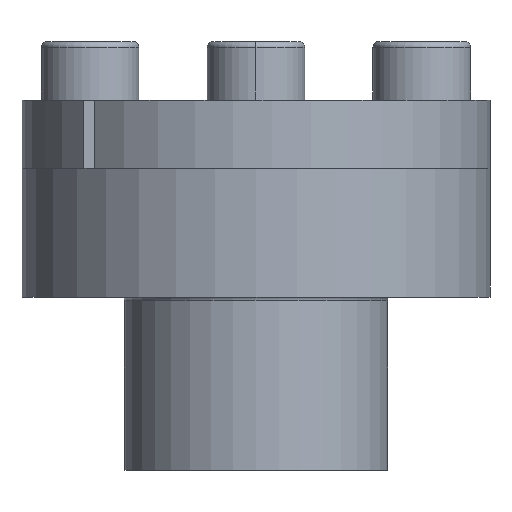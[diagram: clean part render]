
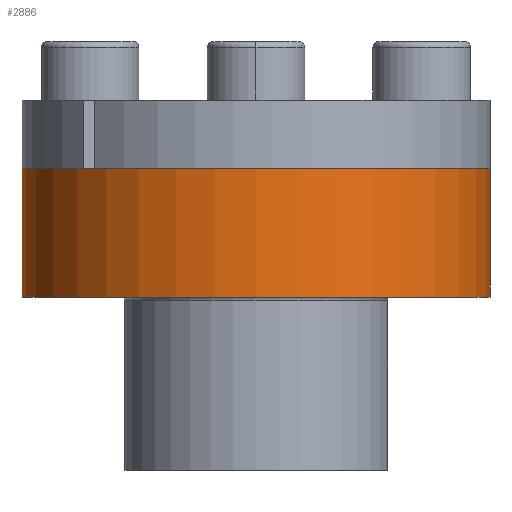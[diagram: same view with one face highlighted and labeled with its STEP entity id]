
A CAD part, front view. The second image highlights one B-rep face of the part: STEP entity #2886.
In plain terms, the highlighted cylindrical face has radius 24 mm (diameter 48 mm), a partial arc.
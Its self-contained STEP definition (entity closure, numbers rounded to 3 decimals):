
#101 = CARTESIAN_POINT ( 'NONE',  ( 24., 0., 4.978 ) ) ;
#222 = EDGE_CURVE ( 'NONE', #2151, #4011, #7605, .T. ) ;
#267 = CARTESIAN_POINT ( 'NONE',  ( -24., 0., 4.978 ) ) ;
#389 = CIRCLE ( 'NONE', #1142, 24. ) ;
#398 = DIRECTION ( 'NONE',  ( 1., 0., 0. ) ) ;
#713 = CARTESIAN_POINT ( 'NONE',  ( -24., 0., 4.978 ) ) ;
#960 = ORIENTED_EDGE ( 'NONE', *, *, #7443, .T. ) ;
#1142 = AXIS2_PLACEMENT_3D ( 'NONE', #7708, #4082, #398 ) ;
#1343 = VECTOR ( 'NONE', #7627, 1000. ) ;
#1680 = CARTESIAN_POINT ( 'NONE',  ( -24., 0., -8.222 ) ) ;
#1854 = CARTESIAN_POINT ( 'NONE',  ( 0., 0., 4.978 ) ) ;
#2039 = VECTOR ( 'NONE', #7875, 1000. ) ;
#2151 = VERTEX_POINT ( 'NONE', #267 ) ;
#2864 = DIRECTION ( 'NONE',  ( -1., 0., 0. ) ) ;
#2886 = ADVANCED_FACE ( 'NONE', ( #6340 ), #7210, .T. ) ;
#3012 = CARTESIAN_POINT ( 'NONE',  ( 0., 0., 4.978 ) ) ;
#3349 = AXIS2_PLACEMENT_3D ( 'NONE', #1854, #3454, #2864 ) ;
#3454 = DIRECTION ( 'NONE',  ( 0., 0., -1. ) ) ;
#3608 = DIRECTION ( 'NONE',  ( 1., 0., 0. ) ) ;
#4011 = VERTEX_POINT ( 'NONE', #1680 ) ;
#4082 = DIRECTION ( 'NONE',  ( 0., 0., 1. ) ) ;
#4191 = ORIENTED_EDGE ( 'NONE', *, *, #7590, .F. ) ;
#4262 = CARTESIAN_POINT ( 'NONE',  ( 24., 0., 4.978 ) ) ;
#4518 = CARTESIAN_POINT ( 'NONE',  ( 24., 0., -8.222 ) ) ;
#4973 = CIRCLE ( 'NONE', #7660, 24. ) ;
#5049 = ORIENTED_EDGE ( 'NONE', *, *, #222, .T. ) ;
#6340 = FACE_OUTER_BOUND ( 'NONE', #6538, .T. ) ;
#6410 = ORIENTED_EDGE ( 'NONE', *, *, #7640, .F. ) ;
#6538 = EDGE_LOOP ( 'NONE', ( #6410, #4191, #5049, #960 ) ) ;
#6704 = LINE ( 'NONE', #4262, #2039 ) ;
#7181 = VERTEX_POINT ( 'NONE', #101 ) ;
#7210 = CYLINDRICAL_SURFACE ( 'NONE', #3349, 24. ) ;
#7243 = DIRECTION ( 'NONE',  ( 0., 0., 1. ) ) ;
#7249 = VERTEX_POINT ( 'NONE', #4518 ) ;
#7443 = EDGE_CURVE ( 'NONE', #4011, #7249, #389, .T. ) ;
#7590 = EDGE_CURVE ( 'NONE', #2151, #7181, #4973, .T. ) ;
#7605 = LINE ( 'NONE', #713, #1343 ) ;
#7627 = DIRECTION ( 'NONE',  ( 0., 0., -1. ) ) ;
#7640 = EDGE_CURVE ( 'NONE', #7181, #7249, #6704, .T. ) ;
#7660 = AXIS2_PLACEMENT_3D ( 'NONE', #3012, #7243, #3608 ) ;
#7708 = CARTESIAN_POINT ( 'NONE',  ( 0., 0., -8.222 ) ) ;
#7875 = DIRECTION ( 'NONE',  ( 0., 0., -1. ) ) ;
